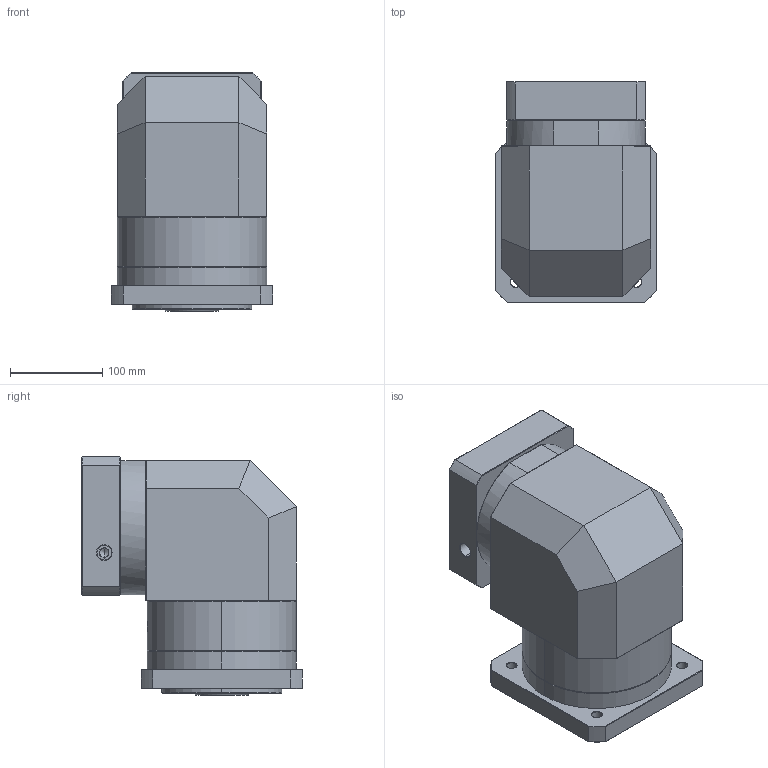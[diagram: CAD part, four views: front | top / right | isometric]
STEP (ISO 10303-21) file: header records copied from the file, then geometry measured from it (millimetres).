
FILE_DESCRIPTION (( 'STEP AP214' ), '1' );
FILE_NAME ('ZFR160A-K35-L1-P2-28-110-145-M8.step', '2023-09-03T09:00:34', ( '' ), ( '' ), 'SwSTEP 2.0', 'SolidWorks 2016', '' );
FILE_SCHEMA (( 'AUTOMOTIVE_DESIGN' ));
Length unit declared in the file: millimetre
Products named in the file (1): ZFR160A-K35-L1-P2-28-110-145-M8
Bounding box: 175 x 239.5 x 258.7 mm (x, y, z)
Volume: 6432108.5 mm3; surface area: 425500 mm2
Topology: 6 solids, 6 shells, 2174 faces, 5749 edges, 3681 vertices
Faces by surface type: plane 1041, bspline 407, cylinder 404, cone 302, torus 20
Entity records: 121158 total; most frequent: CARTESIAN_POINT 48736, ORIENTED_EDGE 11442, DIRECTION 8254, EDGE_CURVE 5721, VERTEX_POINT 3681, LINE 3058, VECTOR 3058, AXIS2_PLACEMENT_3D 2598
